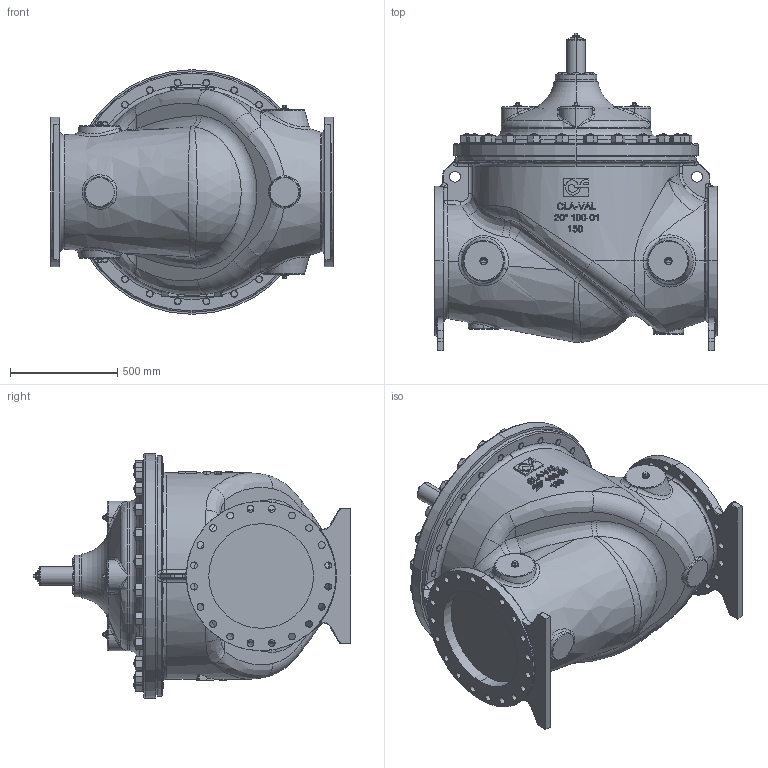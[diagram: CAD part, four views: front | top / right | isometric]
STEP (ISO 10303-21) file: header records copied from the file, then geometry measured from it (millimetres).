
FILE_DESCRIPTION (( 'STEP AP203' ), '1' );
FILE_NAME ('20in Hytrol 150AG.STEP', '2017-07-31T16:38:00', ( '' ), ( '' ), 'SwSTEP 2.0', 'SolidWorks 2017', '' );
FILE_SCHEMA (( 'CONFIG_CONTROL_DESIGN' ));
Length unit declared in the file: inch
Products named in the file (9): STUD 1.375-6 UNC (206818)_18-8 SST 5.38LG; Hexnut 1.375-6 UNC (206819)_ASH-303 SST; WASHER, PLAIN FLAT FOR 1.375 SCREW (67758)_1.375N   67758-04F; 20in Hytrol 150AG; 20in Body HyGl150A STD_150LB FLAT FACE, STD (1 NPT ALL BOSSES); 20in Cover_ALL BOSSES 1NPT, NO SPOTFACE; Bolt .500-13 UNC  (67607)_1.75   67607-53B; 1.0 NPT SQ HD PIPE PLUG (67660)_18-8 SST; 25724 Housing Cover Bearing 18-24in 10001_316 SST  18in & 20 in
Assembly tree (92 placements, depth 2):
  20in Hytrol 150AG
    20in Body HyGl150A STD_150LB FLAT FACE, STD (1 NPT ALL BOSSES)
    20in Cover_ALL BOSSES 1NPT, NO SPOTFACE
    Bolt .500-13 UNC  (67607)_1.75   67607-53B  x8
    1.0 NPT SQ HD PIPE PLUG (67660)_18-8 SST  x9
    25724 Housing Cover Bearing 18-24in 10001_316 SST  18in & 20 in
    STUD 1.375-6 UNC (206818)_18-8 SST 5.38LG  x24
    Hexnut 1.375-6 UNC (206819)_ASH-303 SST  x24
    WASHER, PLAIN FLAT FOR 1.375 SCREW (67758)_1.375N   67758-04F  x24
Bounding box: 1320.8 x 1484.12 x 1143 mm (x, y, z)
Volume: 776316106.6 mm3; surface area: 10151453.1 mm2
Topology: 92 solids, 92 shells, 3010 faces, 6871 edges, 3985 vertices
Faces by surface type: cylinder 867, cone 820, plane 643, torus 383, bspline 250, sphere 47
Entity records: 74538 total; most frequent: CARTESIAN_POINT 39470, ORIENTED_EDGE 6694, DIRECTION 6622, EDGE_CURVE 3347, AXIS2_PLACEMENT_3D 2728, VERTEX_POINT 2080, EDGE_LOOP 1629, CIRCLE 1535
